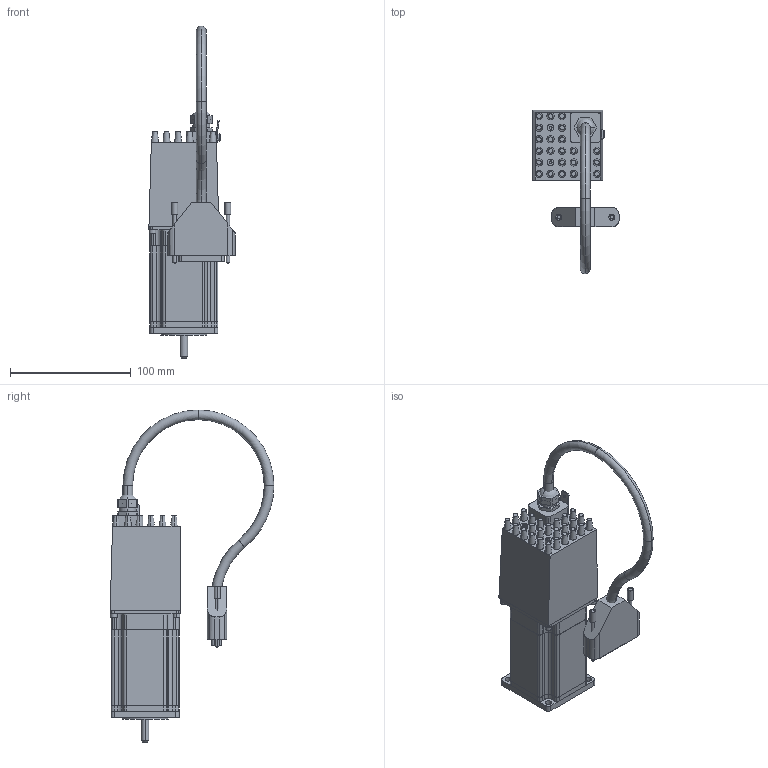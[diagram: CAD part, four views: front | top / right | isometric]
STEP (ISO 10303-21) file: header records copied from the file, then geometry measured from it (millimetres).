
FILE_DESCRIPTION(('STEP AP214'),'1');
FILE_NAME('Z:\toNS\tmp0.step',' ',(' '),(' '),'XStep 1.0',' ',' ');
FILE_SCHEMA(('automotive_design'));
Length unit declared in the file: millimetre
Products named in the file (181): 141; 142; 143; 140
Bounding box: 71.45 x 135.79 x 275.29 mm (x, y, z)
Volume: 536540.9 mm3; surface area: 100580.5 mm2
Topology: 52 solids, 183 shells, 572 faces, 2409 edges, 2076 vertices
Faces by surface type: plane 215, cylinder 158, revolution 116, cone 56, bspline 15, torus 10, sphere 2
Entity records: 35581 total; most frequent: CARTESIAN_POINT 8263, DIRECTION 3572, ORIENTED_EDGE 3382, EDGE_CURVE 2405, VERTEX_POINT 2076, AXIS2_PLACEMENT_3D 1329, B_SPLINE_CURVE_WITH_KNOTS 1016, LINE 798
